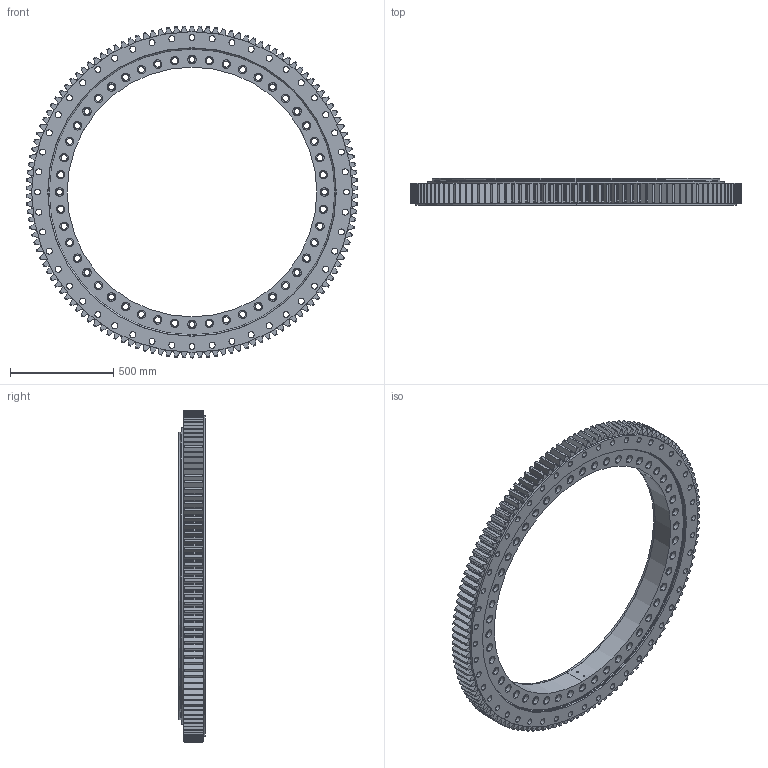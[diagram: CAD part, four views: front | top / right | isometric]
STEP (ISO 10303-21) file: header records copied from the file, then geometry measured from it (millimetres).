
FILE_DESCRIPTION (( 'STEP AP214' ), '1' );
FILE_NAME ('B2230-2-1605AB.STEP', '2022-11-28T14:45:05', ( '' ), ( '' ), 'SwSTEP 2.0', 'SolidWorks 2020', '' );
FILE_SCHEMA (( 'AUTOMOTIVE_DESIGN' ));
Length unit declared in the file: millimetre
Products named in the file (1): B2230-2-1605AB
Bounding box: 1604.74 x 130 x 1605 mm (x, y, z)
Volume: 81591424.3 mm3; surface area: 5345004.3 mm2
Topology: 4 solids, 4 shells, 1326 faces, 3766 edges, 2509 vertices
Faces by surface type: cylinder 467, plane 329, cone 270, bspline 260
Entity records: 45572 total; most frequent: CARTESIAN_POINT 12282, ORIENTED_EDGE 7532, DIRECTION 6021, EDGE_CURVE 3766, VERTEX_POINT 2509, AXIS2_PLACEMENT_3D 2252, EDGE_LOOP 1599, LINE 1517
